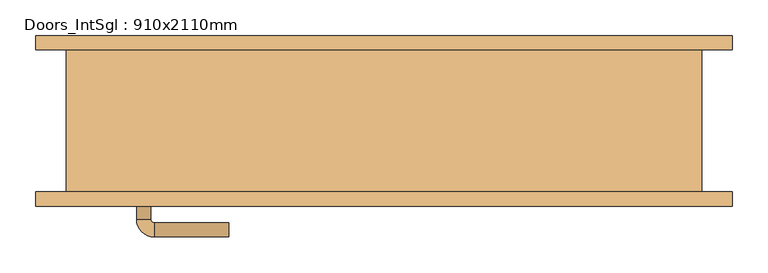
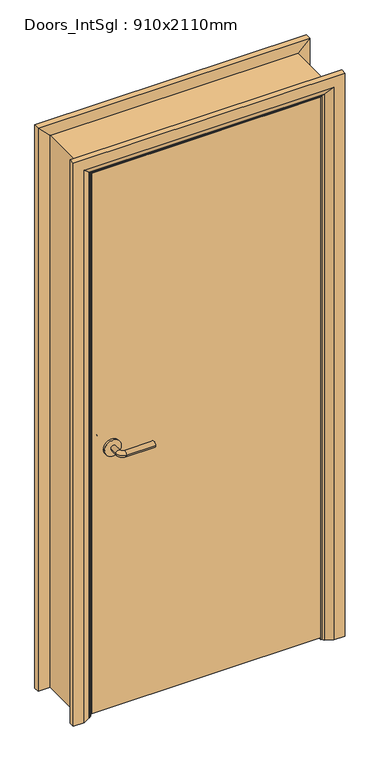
"""IFC4 building model written with IfcOpenShell, lengths in millimetres: door geometry, Doors_IntSgl : 910x2110mm."""

from ifc_helpers import new_model, si_unit, point, frame, frame_2d, origin, place, context, project, spatial, polyline, circle_curve, ellipse_curve, trimmed, segment, composite_curve, outline, extrude, faceted_brep, source, transform, mapped, element, save
from ifc_brep_helpers import plane_surface, cylinder_surface, revolved_surface, advanced_brep


def doors_intsgl_910x2110mm_46137337(model_context):
    return source(origin(), model_context, "Body", "SolidModel", [
        advanced_brep(
        [(-348.0, -54.0, 1000.0), (-328.0, -54.0, 1000.0), (-348.0, -24.0, 1000.0), (-328.0, -24.0, 1000.0), (-323.0, -19.0, 1000.0), (-323.0, 1.0, 1000.0), (-218.0, 1.0, 1000.0), (-218.0, -19.0, 1000.0)],
        [
            (0, 1, circle_curve(frame((-338.0, -54.0, 1000.0), z_axis=(0.0, -1.0, 0.0), x_axis=(1.0, 0.0, 0.0)), 10.0)),
            (1, 0, circle_curve(frame((-338.0, -54.0, 1000.0), z_axis=(0.0, -1.0, 0.0), x_axis=(1.0, 0.0, 0.0)), 10.0)),
            (0, 2),
            (2, 3, circle_curve(frame((-338.0, -24.0, 1000.0), z_axis=(0.0, -1.0, 0.0), x_axis=(1.0, 0.0, 0.0)), 10.0)),
            (3, 1),
            (3, 2, circle_curve(frame((-338.0, -24.0, 1000.0), z_axis=(0.0, -1.0, 0.0), x_axis=(1.0, 0.0, 0.0)), 10.0)),
            (4, 3, circle_curve(frame((-323.0, -24.0, 1000.0), z_axis=(0.0, 0.0, 1.0), x_axis=(-1.0, 0.0, 0.0)), 5.0)),
            (2, 5, circle_curve(frame((-323.0, -24.0, 1000.0), z_axis=(0.0, 0.0, -1.0), x_axis=(-1.0, 0.0, 0.0)), 25.0)),
            (5, 4, circle_curve(frame((-323.0, -9.0, 1000.0), z_axis=(-1.0, 0.0, 0.0), x_axis=(0.0, -1.0, 0.0)), 10.0)),
            (4, 5, circle_curve(frame((-323.0, -9.0, 1000.0), z_axis=(-1.0, 0.0, 0.0), x_axis=(0.0, -1.0, 0.0)), 10.0)),
            (6, 7, circle_curve(frame((-218.0, -9.0, 1000.0), z_axis=(1.0, 0.0, 0.0), x_axis=(0.0, -1.0, 0.0)), 10.0)),
            (7, 6, circle_curve(frame((-218.0, -9.0, 1000.0), z_axis=(1.0, 0.0, 0.0), x_axis=(0.0, -1.0, 0.0)), 10.0)),
            (5, 6),
            (7, 4),
        ],
        [
            plane_surface(frame((-338.0, -54.0, 1000.0), z_axis=(0.0, -1.0, 0.0), x_axis=(0.0, 0.0, 1.0))),
            cylinder_surface(frame((-338.0, -54.0, 1000.0), z_axis=(0.0, -1.0, 0.0), x_axis=(1.0, 0.0, 0.0)), 10.0),
            revolved_surface(trimmed(ellipse_curve(frame((-338.0, -24.0, 1000.0), z_axis=(0.0, -1.0, 0.0), x_axis=(1.0, 0.0, 0.0)), 10.0, 10.0), [point((-348.0, -24.0, 1000.0))], [point((-328.0, -24.0, 1000.0))], True, "CARTESIAN"), (-323.0, -24.0, 1000.0), (0.0, 0.0, -1.0)),
            revolved_surface(trimmed(ellipse_curve(frame((-338.0, -24.0, 1000.0), z_axis=(0.0, -1.0, 0.0), x_axis=(1.0, 0.0, 0.0)), 10.0, 10.0), [point((-328.0, -24.0, 1000.0))], [point((-348.0, -24.0, 1000.0))], True, "CARTESIAN"), (-323.0, -24.0, 1000.0), (0.0, 0.0, -1.0)),
            plane_surface(frame((-218.0, -9.0, 1000.0), z_axis=(1.0, 0.0, 0.0), x_axis=(0.0, 0.0, 1.0))),
            cylinder_surface(frame((-323.0, -9.0, 1000.0), z_axis=(-1.0, 0.0, 0.0), x_axis=(0.0, -1.0, 0.0)), 10.0),
        ],
        [
            (0, [[1, 2]]),
            (1, [[-1, 3, 4, 5]]),
            (1, [[-2, -5, 6, -3]]),
            (2, [[7, -4, 8, 9]]),
            (3, [[-8, -6, -7, 10]]),
            (4, [[11, 12]]),
            (5, [[-9, 13, -12, 14]]),
            (5, [[-10, -14, -11, -13]]),
        ],
    ),
        extrude(outline(composite_curve([segment(trimmed(circle_curve(frame_2d((1000.0, -340.5)), 30.0), [point((1000.0, -370.5))], [point((1000.0, -310.5))], False, "CARTESIAN"), True, "CONTINUOUS"), segment(trimmed(circle_curve(frame_2d((1000.0, -340.5)), 30.0), [point((1000.0, -310.5))], [point((1000.0, -370.5))], False, "CARTESIAN"), True, "CONTINUOUS")], self_intersect=False)), frame((0.0, -62.0, 0.0), z_axis=(0.0, 1.0, 0.0), x_axis=(0.0, 0.0, 1.0)), (0.0, 0.0, 1.0), 8.0),
        advanced_brep(
        [(-348.0, -108.0, 1000.0), (-328.0, -108.0, 1000.0), (-328.0, -138.0, 1000.0), (-348.0, -138.0, 1000.0), (-323.0, -143.0, 1000.0), (-323.0, -163.0, 1000.0), (-218.0, -163.0, 1000.0), (-218.0, -143.0, 1000.0)],
        [
            (0, 1, circle_curve(frame((-338.0, -108.0, 1000.0), z_axis=(0.0, 1.0, 0.0), x_axis=(1.0, 0.0, 0.0)), 10.0)),
            (1, 0, circle_curve(frame((-338.0, -108.0, 1000.0), z_axis=(0.0, 1.0, 0.0), x_axis=(1.0, 0.0, 0.0)), 10.0)),
            (1, 2),
            (2, 3, circle_curve(frame((-338.0, -138.0, 1000.0), z_axis=(0.0, 1.0, 0.0), x_axis=(1.0, 0.0, 0.0)), 10.0)),
            (3, 0),
            (3, 2, circle_curve(frame((-338.0, -138.0, 1000.0), z_axis=(0.0, 1.0, 0.0), x_axis=(1.0, 0.0, 0.0)), 10.0)),
            (4, 5, circle_curve(frame((-323.0, -153.0, 1000.0), z_axis=(-1.0, 0.0, 0.0), x_axis=(0.0, 1.0, 0.0)), 10.0)),
            (5, 3, circle_curve(frame((-323.0, -138.0, 1000.0), z_axis=(0.0, 0.0, -1.0), x_axis=(-1.0, 0.0, 0.0)), 25.0)),
            (2, 4, circle_curve(frame((-323.0, -138.0, 1000.0), z_axis=(0.0, 0.0, 1.0), x_axis=(-1.0, 0.0, 0.0)), 5.0)),
            (5, 4, circle_curve(frame((-323.0, -153.0, 1000.0), z_axis=(-1.0, 0.0, 0.0), x_axis=(0.0, 1.0, 0.0)), 10.0)),
            (6, 7, circle_curve(frame((-218.0, -153.0, 1000.0), z_axis=(1.0, 0.0, 0.0), x_axis=(0.0, 1.0, 0.0)), 10.0)),
            (7, 6, circle_curve(frame((-218.0, -153.0, 1000.0), z_axis=(1.0, 0.0, 0.0), x_axis=(0.0, 1.0, 0.0)), 10.0)),
            (4, 7),
            (6, 5),
        ],
        [
            plane_surface(frame((-338.0, -108.0, 1000.0), z_axis=(0.0, 1.0, 0.0), x_axis=(0.0, 0.0, 1.0))),
            cylinder_surface(frame((-338.0, -108.0, 1000.0), z_axis=(0.0, 1.0, 0.0), x_axis=(1.0, 0.0, 0.0)), 10.0),
            revolved_surface(trimmed(ellipse_curve(frame((-338.0, -138.0, 1000.0), z_axis=(0.0, -1.0, 0.0), x_axis=(1.0, 0.0, 0.0)), 10.0, 10.0), [point((-348.0, -138.0, 1000.0))], [point((-328.0, -138.0, 1000.0))], True, "CARTESIAN"), (-323.0, -138.0, 1000.0), (0.0, 0.0, -1.0)),
            revolved_surface(trimmed(ellipse_curve(frame((-338.0, -138.0, 1000.0), z_axis=(0.0, -1.0, 0.0), x_axis=(1.0, 0.0, 0.0)), 10.0, 10.0), [point((-328.0, -138.0, 1000.0))], [point((-348.0, -138.0, 1000.0))], True, "CARTESIAN"), (-323.0, -138.0, 1000.0), (0.0, 0.0, -1.0)),
            plane_surface(frame((-218.0, -153.0, 1000.0), z_axis=(1.0, 0.0, 0.0), x_axis=(0.0, 0.0, 1.0))),
            cylinder_surface(frame((-323.0, -153.0, 1000.0), z_axis=(-1.0, 0.0, 0.0), x_axis=(0.0, 1.0, 0.0)), 10.0),
        ],
        [
            (0, [[1, 2]]),
            (1, [[3, 4, 5, -2]]),
            (1, [[-5, 6, -3, -1]]),
            (2, [[7, 8, -4, 9]]),
            (3, [[10, -9, -6, -8]]),
            (4, [[11, 12]]),
            (5, [[13, -11, 14, -7]]),
            (5, [[-14, -12, -13, -10]]),
        ],
    ),
        extrude(outline(composite_curve([segment(trimmed(circle_curve(frame_2d((1000.0, -340.5)), 30.0), [point((1000.0, -370.5))], [point((1000.0, -310.5))], False, "CARTESIAN"), True, "CONTINUOUS"), segment(trimmed(circle_curve(frame_2d((1000.0, -340.5)), 30.0), [point((1000.0, -310.5))], [point((1000.0, -370.5))], False, "CARTESIAN"), True, "CONTINUOUS")], self_intersect=False)), frame((0.0, -108.0, 0.0), z_axis=(0.0, 1.0, 0.0), x_axis=(0.0, 0.0, 1.0)), (0.0, 0.0, 1.0), 8.0),
        extrude(outline(polyline([(413.0, -62.0), (413.0, -100.0), (-413.0, -100.0), (-413.0, -62.0), (413.0, -62.0)])), frame((0.0, 0.0, 8.0), z_axis=(0.0, 0.0, 1.0), x_axis=(1.0, 0.0, 0.0)), (0.0, 0.0, 1.0), 2060.0),
        advanced_brep(
        [(490.0, -120.0, 0.0), (450.0, -120.0, 0.0), (424.0, -106.0, 0.0), (420.0, -100.0, 0.0), (490.0, -100.0, 0.0), (490.0, -100.0, 2145.0), (490.0, -120.0, 2145.0), (420.0, -100.0, 2075.0), (-420.0, -100.0, 2075.0), (-420.0, -100.0, 0.0), (-490.0, -100.0, 0.0), (-490.0, -100.0, 2145.0), (424.0, -106.0, 2079.0), (450.0, -120.0, 2105.0), (-490.0, -120.0, 2145.0), (-490.0, -120.0, 0.0), (-450.0, -120.0, 0.0), (-450.0, -120.0, 2105.0), (-424.0, -106.0, 2079.0), (-424.0, -106.0, 0.0)],
        [
            (0, 1),
            (1, 2),
            (2, 3, circle_curve(frame((428.0, -99.0, 0.0), z_axis=(0.0, 0.0, -1.0), x_axis=(1.0, 0.0, 0.0)), 8.0622577)),
            (3, 4),
            (4, 0),
            (4, 5),
            (5, 6),
            (6, 0),
            (3, 7),
            (7, 8),
            (8, 9),
            (9, 10),
            (10, 11),
            (11, 5),
            (2, 12),
            (12, 7, ellipse_curve(frame((428.0, -99.0, 2083.0), z_axis=(0.7071067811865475, 0.0, -0.7071067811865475), x_axis=(-0.7071067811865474, 0.0, -0.7071067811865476)), 11.4017543, 8.0622577)),
            (1, 13),
            (13, 12),
            (6, 14),
            (14, 15),
            (15, 16),
            (16, 17),
            (17, 13),
            (11, 14),
            (12, 18),
            (18, 8, ellipse_curve(frame((-428.0, -99.0, 2083.0), z_axis=(0.7071067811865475, 0.0, 0.7071067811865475), x_axis=(0.7071067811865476, 0.0, -0.7071067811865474)), 11.4017543, 8.0622577)),
            (17, 18),
            (15, 10),
            (9, 19, circle_curve(frame((-428.0, -99.0, 0.0), z_axis=(0.0, 0.0, -1.0), x_axis=(-1.0, 0.0, 0.0)), 8.0622577)),
            (19, 16),
            (18, 19),
        ],
        [
            plane_surface(frame((420.0, -100.0, 0.0), z_axis=(0.0, 0.0, -1.0), x_axis=(0.0, 1.0, 0.0))),
            plane_surface(frame((490.0, -120.0, 0.0), z_axis=(1.0, 0.0, 0.0), x_axis=(0.0, 0.0, 1.0))),
            plane_surface(frame((490.0, -100.0, 0.0), z_axis=(0.0, 1.0, 0.0), x_axis=(0.0, 0.0, 1.0))),
            cylinder_surface(frame((428.0, -99.0, 0.0), z_axis=(0.0, 0.0, -1.0), x_axis=(1.0, 0.0, 0.0)), 8.0622577),
            plane_surface(frame((424.0, -106.0, 0.0), z_axis=(-0.4740998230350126, -0.880471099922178, 0.0), x_axis=(0.0, 0.0, 1.0))),
            plane_surface(frame((450.0, -120.0, 0.0), z_axis=(0.0, -1.0, 0.0), x_axis=(0.0, 0.0, 1.0))),
            plane_surface(frame((490.0, -120.0, 2145.0), z_axis=(0.0, 0.0, 1.0), x_axis=(-1.0, 0.0, 0.0))),
            cylinder_surface(frame((420.0, -99.0, 2083.0), z_axis=(1.0, 0.0, 0.0), x_axis=(0.0, 0.0, 1.0)), 8.0622577),
            plane_surface(frame((424.0, -106.0, 2079.0), z_axis=(0.0, -0.8804710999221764, -0.4740998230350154), x_axis=(-1.0, 0.0, 0.0))),
            plane_surface(frame((-420.0, -100.0, 0.0), z_axis=(0.0, 0.0, -1.0), x_axis=(0.0, 1.0, 0.0))),
            plane_surface(frame((-490.0, -120.0, 2145.0), z_axis=(-1.0, 0.0, 0.0), x_axis=(0.0, 0.0, -1.0))),
            cylinder_surface(frame((-428.0, -99.0, 2075.0), z_axis=(0.0, 0.0, 1.0), x_axis=(-1.0, 0.0, 0.0)), 8.0622577),
            plane_surface(frame((-424.0, -106.0, 2079.0), z_axis=(0.47409982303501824, -0.8804710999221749, 0.0), x_axis=(0.0, 0.0, -1.0))),
        ],
        [
            (0, [[1, 2, 3, 4, 5]]),
            (1, [[6, 7, 8, -5]]),
            (2, [[9, 10, 11, 12, 13, 14, -6, -4]]),
            (3, [[15, 16, -9, -3]]),
            (4, [[17, 18, -15, -2]]),
            (5, [[-8, 19, 20, 21, 22, 23, -17, -1]]),
            (6, [[-14, 24, -19, -7]]),
            (7, [[25, 26, -10, -16]]),
            (8, [[-23, 27, -25, -18]]),
            (9, [[28, -12, 29, 30, -21]]),
            (10, [[-13, -28, -20, -24]]),
            (11, [[31, -29, -11, -26]]),
            (12, [[-22, -30, -31, -27]]),
        ],
    ),
        extrude(outline(polyline([(0.0, -396.0), (2051.0, -396.0), (2051.0, 396.0), (0.0, 396.0), (0.0, 415.0), (2070.0, 415.0), (2070.0, -415.0), (0.0, -415.0), (0.0, -396.0)])), frame((0.0, -60.0, 0.0), z_axis=(0.0, 1.0, 0.0), x_axis=(0.0, 0.0, 1.0)), (0.0, 0.0, 1.0), 32.0),
        advanced_brep(
        [(-490.0, 120.0, 0.0), (-450.0, 120.0, 0.0), (-424.0, 106.0, 0.0), (-420.0, 100.0, 0.0), (-490.0, 100.0, 0.0), (-490.0, 100.0, 2145.0), (-490.0, 120.0, 2145.0), (-420.0, 100.0, 2075.0), (-424.0, 106.0, 2079.0), (-450.0, 120.0, 2105.0), (490.0, 100.0, 2145.0), (490.0, 120.0, 2145.0), (420.0, 100.0, 2075.0), (424.0, 106.0, 2079.0), (450.0, 120.0, 2105.0), (490.0, 120.0, 0.0), (490.0, 100.0, 0.0), (420.0, 100.0, 0.0), (424.0, 106.0, 0.0), (450.0, 120.0, 0.0)],
        [
            (0, 1),
            (1, 2),
            (2, 3, circle_curve(frame((-428.0, 99.0, 0.0), z_axis=(0.0, 0.0, -1.0), x_axis=(-1.0, 0.0, 0.0)), 8.0622577)),
            (3, 4),
            (4, 0),
            (4, 5),
            (5, 6),
            (6, 0),
            (3, 7),
            (7, 5),
            (2, 8),
            (8, 7, ellipse_curve(frame((-428.0, 99.0, 2083.0), z_axis=(-0.7071067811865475, 0.0, -0.7071067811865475), x_axis=(0.7071067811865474, 0.0, -0.7071067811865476)), 11.4017543, 8.0622577)),
            (1, 9),
            (9, 8),
            (6, 9),
            (5, 10),
            (10, 11),
            (11, 6),
            (7, 12),
            (12, 10),
            (8, 13),
            (13, 12, ellipse_curve(frame((428.0, 99.0, 2083.0), z_axis=(-0.7071067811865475, 0.0, 0.7071067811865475), x_axis=(-0.7071067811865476, 0.0, -0.7071067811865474)), 11.4017543, 8.0622577)),
            (9, 14),
            (14, 13),
            (11, 14),
            (15, 16),
            (16, 17),
            (17, 18, circle_curve(frame((428.0, 99.0, 0.0), z_axis=(0.0, 0.0, -1.0), x_axis=(1.0, 0.0, 0.0)), 8.0622577)),
            (18, 19),
            (19, 15),
            (10, 16),
            (15, 11),
            (12, 17),
            (13, 18),
            (14, 19),
        ],
        [
            plane_surface(frame((-420.0, 172.8010989, 0.0), z_axis=(0.0, 0.0, -1.0), x_axis=(1.0, 0.0, 0.0))),
            plane_surface(frame((-490.0, 120.0, 0.0), z_axis=(-1.0, 0.0, 0.0), x_axis=(0.0, 0.0, 1.0))),
            plane_surface(frame((-490.0, 100.0, 0.0), z_axis=(0.0, -1.0, 0.0), x_axis=(0.0, 0.0, 1.0))),
            cylinder_surface(frame((-428.0, 99.0, 0.0), z_axis=(0.0, 0.0, -1.0), x_axis=(-1.0, 0.0, 0.0)), 8.0622577),
            plane_surface(frame((-424.0, 106.0, 0.0), z_axis=(0.4740998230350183, 0.8804710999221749, 0.0), x_axis=(0.0, 0.0, 1.0))),
            plane_surface(frame((-450.0, 120.0, 0.0), z_axis=(0.0, 1.0, 0.0), x_axis=(0.0, 0.0, 1.0))),
            plane_surface(frame((-490.0, 120.0, 2145.0), z_axis=(0.0, 0.0, 1.0), x_axis=(1.0, 0.0, 0.0))),
            plane_surface(frame((-490.0, 100.0, 2145.0), z_axis=(0.0, -1.0, 0.0), x_axis=(1.0, 0.0, 0.0))),
            cylinder_surface(frame((-420.0, 99.0, 2083.0), z_axis=(-1.0, 0.0, 0.0), x_axis=(0.0, 0.0, 1.0)), 8.0622577),
            plane_surface(frame((-424.0, 106.0, 2079.0), z_axis=(0.0, 0.8804710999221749, -0.4740998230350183), x_axis=(1.0, 0.0, 0.0))),
            plane_surface(frame((-450.0, 120.0, 2105.0), z_axis=(0.0, 1.0, 0.0), x_axis=(1.0, 0.0, 0.0))),
            plane_surface(frame((420.0, 172.8010989, 0.0), z_axis=(0.0, 0.0, -1.0), x_axis=(-1.0, 0.0, 0.0))),
            plane_surface(frame((490.0, 120.0, 2145.0), z_axis=(1.0, 0.0, 0.0), x_axis=(0.0, 0.0, -1.0))),
            plane_surface(frame((490.0, 100.0, 2145.0), z_axis=(0.0, -1.0, 0.0), x_axis=(0.0, 0.0, -1.0))),
            cylinder_surface(frame((428.0, 99.0, 2075.0), z_axis=(0.0, 0.0, 1.0), x_axis=(1.0, 0.0, 0.0)), 8.0622577),
            plane_surface(frame((424.0, 106.0, 2079.0), z_axis=(-0.4740998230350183, 0.8804710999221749, 0.0), x_axis=(0.0, 0.0, -1.0))),
            plane_surface(frame((450.0, 120.0, 2105.0), z_axis=(0.0, 1.0, 0.0), x_axis=(0.0, 0.0, -1.0))),
        ],
        [
            (0, [[1, 2, 3, 4, 5]]),
            (1, [[6, 7, 8, -5]]),
            (2, [[9, 10, -6, -4]]),
            (3, [[11, 12, -9, -3]]),
            (4, [[13, 14, -11, -2]]),
            (5, [[-8, 15, -13, -1]]),
            (6, [[16, 17, 18, -7]]),
            (7, [[19, 20, -16, -10]]),
            (8, [[21, 22, -19, -12]]),
            (9, [[23, 24, -21, -14]]),
            (10, [[-18, 25, -23, -15]]),
            (11, [[26, 27, 28, 29, 30]]),
            (12, [[31, -26, 32, -17]]),
            (13, [[33, -27, -31, -20]]),
            (14, [[34, -28, -33, -22]]),
            (15, [[35, -29, -34, -24]]),
            (16, [[-32, -30, -35, -25]]),
        ],
    ),
        faceted_brep([(-415.0, -100.0, 0.0), (-447.0, -100.0, 0.0), (-447.0, 100.0, 0.0), (-415.0, 100.0, 0.0), (-415.0, 100.0, 2070.0), (-415.0, -100.0, 2070.0), (-447.0, 100.0, 2102.0), (-447.0, -100.0, 2102.0), (415.0, 100.0, 2070.0), (415.0, -100.0, 2070.0), (447.0, 100.0, 2102.0), (447.0, -100.0, 2102.0), (415.0, -100.0, 0.0), (415.0, 100.0, 0.0), (447.0, 100.0, 0.0), (447.0, -100.0, 0.0)], [[[0, 1, 2, 3]], [[3, 4, 5, 0]], [[2, 6, 4, 3]], [[1, 7, 6, 2]], [[0, 5, 7, 1]], [[4, 8, 9, 5]], [[6, 10, 8, 4]], [[7, 11, 10, 6]], [[5, 9, 11, 7]], [[12, 13, 14, 15]], [[8, 13, 12, 9]], [[10, 14, 13, 8]], [[11, 15, 14, 10]], [[9, 12, 15, 11]]]),
    ])


if __name__ == "__main__":
    model = new_model("IFC4")
    model_context = context("Model", 3, world=origin())
    ifc_project = project(units=[si_unit("LENGTHUNIT", "METRE", prefix="MILLI")], contexts=[model_context])
    site = spatial("IfcSite", under=ifc_project)
    building = spatial("IfcBuilding", under=site)
    placement = place(None, origin())
    doors_intsgl_910x2110mm_shape = doors_intsgl_910x2110mm_46137337(model_context)
    element("IfcDoor", 1, ObjectType="Doors_IntSgl : 910x2110mm", at=placement, inside=building, context=model_context, shape_type="MappedRepresentation", body=[
        mapped(doors_intsgl_910x2110mm_shape, transform((0.0, 0.0, 0.0), x_axis=(1.0, 0.0, 0.0), y_axis=(0.0, 1.0, 0.0), z_axis=(0.0, 0.0, 1.0))),
    ])
    save(model, "model.ifc")
